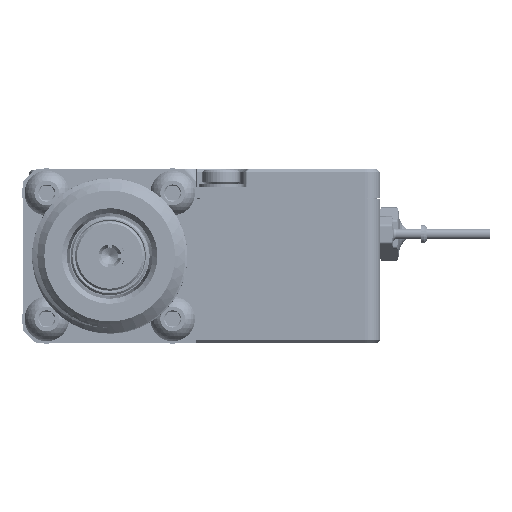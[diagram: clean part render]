
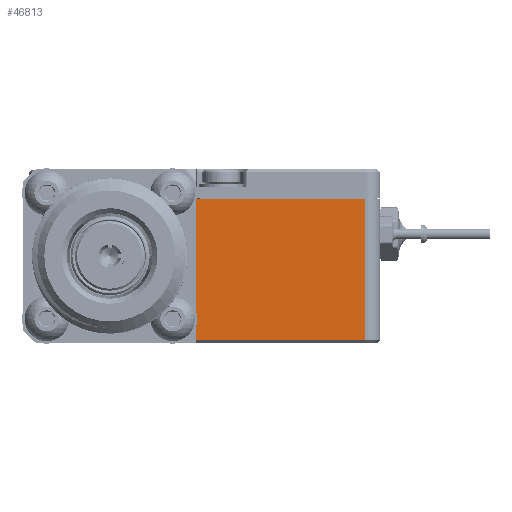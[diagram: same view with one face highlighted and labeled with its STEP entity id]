
A CAD part, left-side view. The second image highlights one B-rep face of the part: STEP entity #46813.
In plain terms, the highlighted planar face has unit normal (-1, 0, 0).
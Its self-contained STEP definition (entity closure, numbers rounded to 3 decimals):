
#310 = EDGE_CURVE ( 'NONE', #56249, #37269, #17088, .T. ) ;
#395 = CARTESIAN_POINT ( 'NONE',  ( -15., -18., 9.4 ) ) ;
#594 = EDGE_CURVE ( 'NONE', #30319, #9370, #30259, .T. ) ;
#4018 = CARTESIAN_POINT ( 'NONE',  ( -15., 0.5, 10.65 ) ) ;
#8629 = LINE ( 'NONE', #49208, #30739 ) ;
#9370 = VERTEX_POINT ( 'NONE', #46712 ) ;
#10466 = ORIENTED_EDGE ( 'NONE', *, *, #46309, .F. ) ;
#11976 = DIRECTION ( 'NONE',  ( 0., -1., 0. ) ) ;
#12480 = CARTESIAN_POINT ( 'NONE',  ( -15., -16.5, -3.6 ) ) ;
#13611 = LINE ( 'NONE', #28817, #42419 ) ;
#16063 = DIRECTION ( 'NONE',  ( 0., 0., 1. ) ) ;
#17088 = LINE ( 'NONE', #24317, #47660 ) ;
#17582 = EDGE_CURVE ( 'NONE', #37269, #9370, #8629, .T. ) ;
#18997 = DIRECTION ( 'NONE',  ( 0., 0., -1. ) ) ;
#20105 = AXIS2_PLACEMENT_3D ( 'NONE', #395, #27538, #18997 ) ;
#20807 = CARTESIAN_POINT ( 'NONE',  ( -15., 0., 10.65 ) ) ;
#22048 = EDGE_LOOP ( 'NONE', ( #10466, #31195, #49497, #59206 ) ) ;
#23251 = FACE_OUTER_BOUND ( 'NONE', #22048, .T. ) ;
#24317 = CARTESIAN_POINT ( 'NONE',  ( -15., -18., -3.6 ) ) ;
#27538 = DIRECTION ( 'NONE',  ( 1., 0., 0. ) ) ;
#27915 = DIRECTION ( 'NONE',  ( 0., 0., 1. ) ) ;
#28817 = CARTESIAN_POINT ( 'NONE',  ( -15., 0.5, 9.4 ) ) ;
#30259 = LINE ( 'NONE', #20807, #41891 ) ;
#30319 = VERTEX_POINT ( 'NONE', #4018 ) ;
#30739 = VECTOR ( 'NONE', #16063, 1000. ) ;
#31195 = ORIENTED_EDGE ( 'NONE', *, *, #310, .T. ) ;
#37269 = VERTEX_POINT ( 'NONE', #12480 ) ;
#41891 = VECTOR ( 'NONE', #11976, 1000. ) ;
#42133 = PLANE ( 'NONE',  #20105 ) ;
#42419 = VECTOR ( 'NONE', #27915, 1000. ) ;
#42901 = DIRECTION ( 'NONE',  ( 0., -1., 0. ) ) ;
#46309 = EDGE_CURVE ( 'NONE', #56249, #30319, #13611, .T. ) ;
#46712 = CARTESIAN_POINT ( 'NONE',  ( -15., -16.5, 10.65 ) ) ;
#46813 = ADVANCED_FACE ( 'NONE', ( #23251 ), #42133, .F. ) ;
#47660 = VECTOR ( 'NONE', #42901, 1000. ) ;
#49208 = CARTESIAN_POINT ( 'NONE',  ( -15., -16.5, 9.4 ) ) ;
#49497 = ORIENTED_EDGE ( 'NONE', *, *, #17582, .T. ) ;
#50878 = CARTESIAN_POINT ( 'NONE',  ( -15., 0.5, -3.6 ) ) ;
#56249 = VERTEX_POINT ( 'NONE', #50878 ) ;
#59206 = ORIENTED_EDGE ( 'NONE', *, *, #594, .F. ) ;
